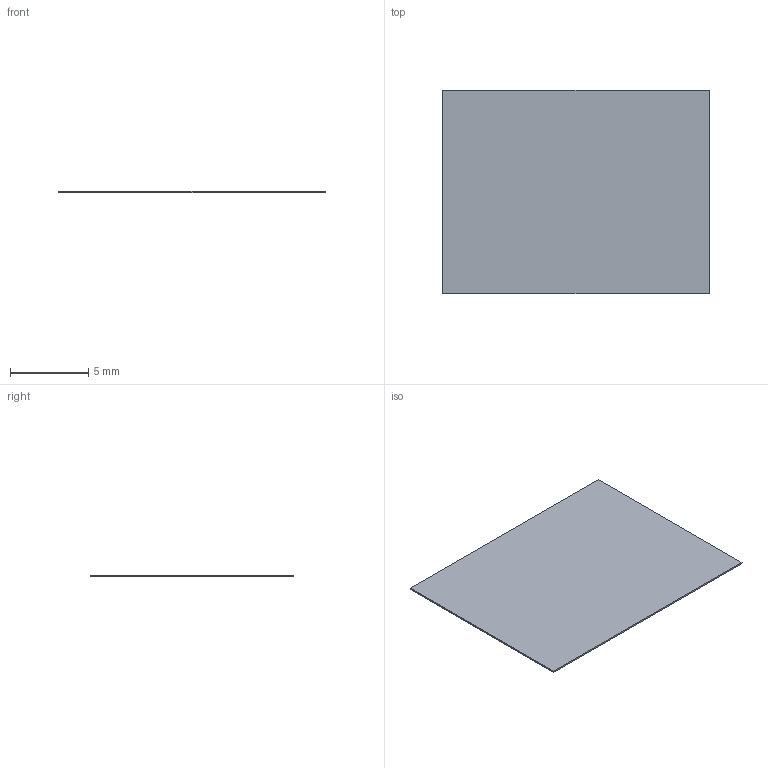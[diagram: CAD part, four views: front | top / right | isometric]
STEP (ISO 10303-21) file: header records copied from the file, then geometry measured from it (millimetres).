
FILE_DESCRIPTION(/* description */ ('STEP AP242 Edition 2','CAx-IF Rec.Pracs.---Representation and Presentation of Product Manufacturing Information (PMI)---4.0---2014-10-13','CAx-IF Rec.Pracs.---3D Tessellated Geometry---0.4---2014-09-14','2;1','CAx-IF Rec.Pracs.---User Defined Attributes---1.5---2016-08-15'),/* implementation_level */ '2;1');
FILE_NAME(/* name */ 'e01627ac-c51c-460f-b394-221f5430f148',/* time_stamp */ '2026-11-04T05:15:28Z',/* author */ (''),/* organization */ (''),/* preprocessor_version */ 'ST-DEVELOPER v20',/* originating_system */ 'ONSHAPE BY PTC INC, 1.223',/* authorisation */ ' ');
FILE_SCHEMA (('AP242_MANAGED_MODEL_BASED_3D_ENGINEERING_MIM_LF { 1 0 10303 442 3 1 4 }'));
Length unit declared in the file: metre
Products named in the file (1): SG90 - Micro Servo 9g - Tower Pro.1_Pe‡a
Bounding box: 17 x 13 x 0.1 mm (x, y, z)
Volume: 22.1 mm3; surface area: 448 mm2
Topology: 1 solids, 1 shells, 6 faces, 12 edges, 8 vertices
Faces by surface type: plane 6
Entity records: 178 total; most frequent: CARTESIAN_POINT 27, DIRECTION 26, ORIENTED_EDGE 24, EDGE_CURVE 12, LINE 12, VECTOR 12, VERTEX_POINT 8, AXIS2_PLACEMENT_3D 7
